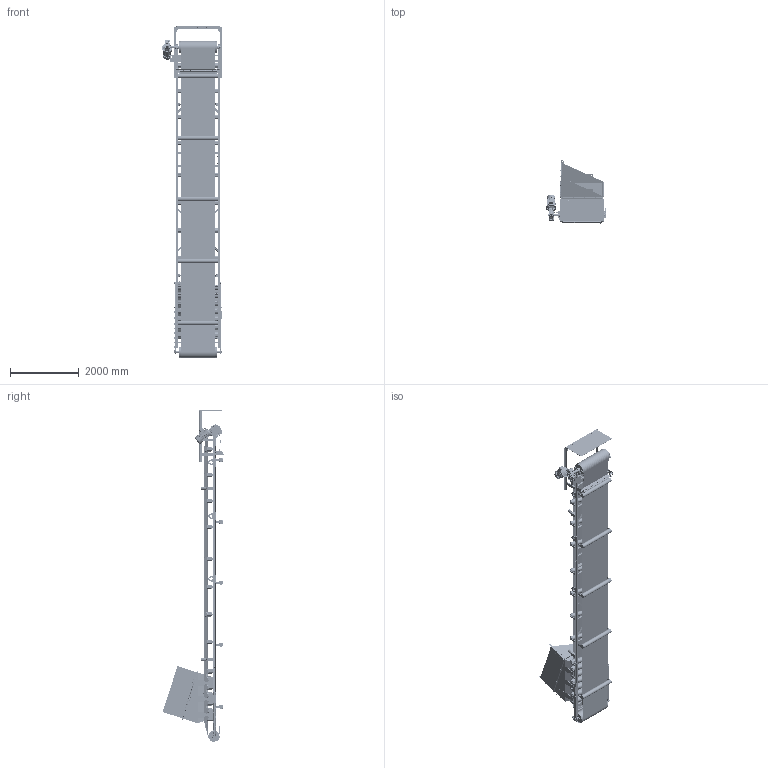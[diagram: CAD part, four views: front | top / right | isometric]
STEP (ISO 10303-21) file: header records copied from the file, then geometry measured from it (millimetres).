
FILE_DESCRIPTION(/* description */ (''),/* implementation_level */ '2;1');
FILE_NAME(/* name */ 'beltconveyor_a138_w1000_l9200.stp',/* time_stamp */ '2025-01-16T20:32:02+08:00',/* author */ (''),/* organization */ (''),/* preprocessor_version */ 'ST-DEVELOPER v16.7',/* originating_system */ 'SIEMENS PLM Software NX 12.0',/* authorisation */ '');
FILE_SCHEMA (('AUTOMOTIVE_DESIGN { 1 0 10303 214 3 1 1 1 }'));
Products named in the file (207): __000_00_20__.447_00; __000_00_20__.417_00; __000_00_20__.452_00; __000_00_20__.460_00; __000_00_20__.454_00; __000_00_20__.434_00_姞_酄‘鉅氅_; __000_00_20__.321_00; __000_00_20__.433_00_姞_酄‘鉅氅_; __000_00_20__.455_00; __000_00_20__.433.002_00_姞_酄‘鉅氅_; SKELETON^__000_00_20__.065_00; __000_00_20__.459_00; __000_00_20__.322_00; __000_00_20__.453_00; __000_00_20__.456_00; __000_00_20__.419.002_00_姞_酄‘鉅氅_; __000_00_20__.481_00; __000_00_20__.483_00_姞_酄‘鉅氅_; __000_00_20__.419_00_姞_酄‘鉅氅_; __000_00_20__.471_00; __000_00_20__.484_00_姞_酄‘鉅氅_; __000_00_20__.463_00; SKF_UCP 209_00_13; SKF_UCP 209_00_3; SKF_UCP 209_00_5; SKF_UCP 209_00_12; SKF_UCP 209_00_11; SKF_UCP 209_00_8; SKF_UCP 209_00_9; SKF_UCP 209_00_10; SKF_UCP 209_00_6; SKF_UCP 209_00_2; SKF_UCP 209_00_4; SKF_UCP 209_00_7; SKF_UCP 209_00; __000_00_20__.445_00_2; __000_00_20__.407_00; __000_00_20__.408_00; __000_00_20__.445_00; __000_00_20__.414_00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
Assembly tree (1222 placements, depth 6):
  beltconveyor_a138_w1000_l9200
    __000_00_20__.055_00
      __000_00_20__.821_00  x8
      __000_00_20__.474_00_2
        __000_00_20__.474_00
        __000_00_20__.475_00
        __000_00_20__.450_00
      Hex Nut 5927_gost_儬┆_M10 儙憭 
5927-70  x6
      Hex Bolt 7805_gost_伄 M10x28 儙憭 
7805-70  x4
      Washer 11371n_gost_槧_A.10 儙憭 
11371-78  x14
      Washer 11371n_gost_槧_A.16 儙憭 
11371-78  x5
      __000_00_20__.066_00
        __000_00_20__.478_00
        __000_00_20__.479_00  x5
      Hex Bolt 7805_gost_伄 M10x1,25x45 儙憭 
7805-70  x2
      Hex Nut 5927_gost_儬┆_M16 儙憭 
5927-70  x5
      Hex Bolt 7805_gost_伄 M12x1,25x35 儙憭 
7805-70  x2
      __000_00_20__.440_00_2
        __000_00_20__.472_00_姞_酄‘鉅氅_
        __000_00_20__.473_00
      __000_00_20__.021_00
        __000_00_20__.442_00_姞_酄‘鉅氅_
        __000_00_20__.469_00  x2
      __000_00_20__.440_00119475
        __000_00_20__.472_00_姞_酄‘鉅氅_
        __000_00_20__.473_00
      __000_00_20__.474_00494
        __000_00_20__.474_00
        __000_00_20__.450_00
        __000_00_20__.475_00
      __000_00_20__.041_00
        __000_00_20__.468_00
        __000_00_20__.470_00_姞_酄‘鉅氅_
      __000_00_20__.041_00_2
        __000_00_20__.470_00_姞_酄‘鉅氅_
        __000_00_20__.468_00
      __000_00_20__.802_00
    Washer 11371n_gost_槧_A.16 儙憭 
11371-78  x4
    washer 10906_gost_槧_16 儙憭 
10906-78  x4
    Hex Bolt 7805_gost_伄 M20x2x75 儙憭 
7805-70
    Washer 6402_3_gost_槧_10 儙憭 
6402-70
    Washer 11371n_gost_槧_A.10 儙憭 
11371-78
    __000_00_20__.061_00
      杂遗形挛淄闻 饰塑治 1
27_57 S=30_00  x252
      Hex Bolt 7805_gost_伄 M16x55 儙憭 
7805-70  x4
      惺127_0_.051-02_形巳__127_80-12_8 梦岩 
22646-77 _00  x45
      Hex Nut 5927_gost_儬┆_M24x1,5 儙憭 
5927-70  x8
      Hex Bolt 7805_gost_伄 M24x75 儙憭 
7805-70  x4
      Washer 11371n_gost_槧_A.24 儙憭 
11371-78  x12
      Hex Bolt 7805_gost_伄 M16x40 儙憭 
7805-70  x8
      Washer 11371n_gost_槧_A.16 儙憭 
11371-78  x24
      __000_00_20__.052_00
        __000_00_20__.016_00
          __000_00_20__.801_00
          __000_00_20__.014_00
            __000_00_20__.408_00  x2
            __000_00_20__.417_00  x8
            __000_00_20__.447_00
            __000_00_20__.407_00
        SKF_UCP 214_0055020  x2
Bounding box: 1738.5 x 1860.58 x 9635.65 mm (x, y, z)
Volume: 1055030413.9 mm3; surface area: 125788791.2 mm2
Topology: 1391 solids, 1445 shells, 24200 faces, 58796 edges, 37741 vertices
Faces by surface type: plane 10763, cylinder 6727, cone 2489, torus 2225, extrusion 1845, sphere 129, bspline 22
Entity records: 283965 total; most frequent: CARTESIAN_POINT 62421, DIRECTION 39044, ORIENTED_EDGE 37986, EDGE_CURVE 18993, AXIS2_PLACEMENT_3D 14291, VERTEX_POINT 12478, VECTOR 10462, LINE 10093
